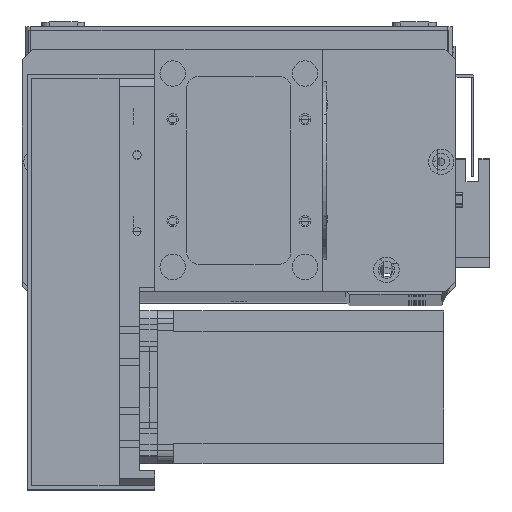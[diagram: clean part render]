
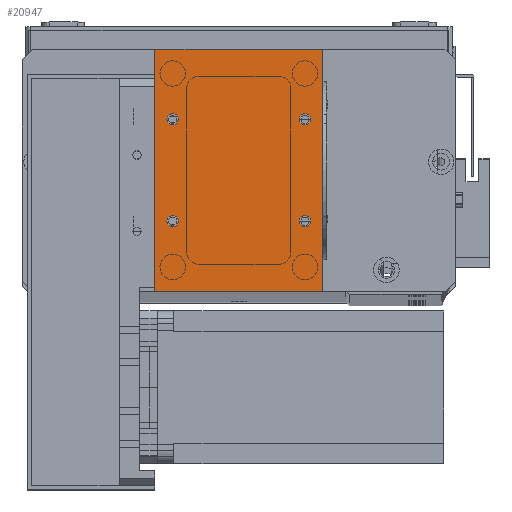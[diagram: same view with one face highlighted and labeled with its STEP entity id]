
A CAD part, top view. The second image highlights one B-rep face of the part: STEP entity #20947.
In plain terms, the highlighted planar face has unit normal (0, 0, 1).
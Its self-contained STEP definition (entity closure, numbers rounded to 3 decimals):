
#567 = ORIENTED_EDGE ( 'NONE', *, *, #2115, .F. ) ;
#803 = CARTESIAN_POINT ( 'NONE',  ( 59., 67.5, 2. ) ) ;
#1285 = PLANE ( 'NONE',  #7301 ) ;
#1439 = DIRECTION ( 'NONE',  ( 1., 0., 0. ) ) ;
#1466 = DIRECTION ( 'NONE',  ( 0., 0., 1. ) ) ;
#1547 = CARTESIAN_POINT ( 'NONE',  ( 7., 27.5, 2. ) ) ;
#2023 = FACE_BOUND ( 'NONE', #6012, .T. ) ;
#2066 = EDGE_CURVE ( 'NONE', #28147, #5620, #19263, .T. ) ;
#2115 = EDGE_CURVE ( 'NONE', #4869, #18068, #24587, .T. ) ;
#2443 = CARTESIAN_POINT ( 'NONE',  ( 66., 0., 2. ) ) ;
#2598 = CARTESIAN_POINT ( 'NONE',  ( 59., 27.5, 2. ) ) ;
#2672 = DIRECTION ( 'NONE',  ( 0., 0., 1. ) ) ;
#2679 = DIRECTION ( 'NONE',  ( 1., 0., 0. ) ) ;
#2880 = FACE_BOUND ( 'NONE', #15116, .T. ) ;
#3403 = AXIS2_PLACEMENT_3D ( 'NONE', #3991, #4070, #4108 ) ;
#3521 = DIRECTION ( 'NONE',  ( 1., 0., 0. ) ) ;
#3991 = CARTESIAN_POINT ( 'NONE',  ( 59., 67.5, 2. ) ) ;
#4070 = DIRECTION ( 'NONE',  ( 0., 0., 1. ) ) ;
#4108 = DIRECTION ( 'NONE',  ( 1., 0., 0. ) ) ;
#4228 = LINE ( 'NONE', #27708, #23693 ) ;
#4869 = VERTEX_POINT ( 'NONE', #25744 ) ;
#5131 = VERTEX_POINT ( 'NONE', #30976 ) ;
#5620 = VERTEX_POINT ( 'NONE', #14613 ) ;
#5878 = VECTOR ( 'NONE', #31390, 1000. ) ;
#5947 = EDGE_CURVE ( 'NONE', #17733, #8919, #14977, .T. ) ;
#6012 = EDGE_LOOP ( 'NONE', ( #10769, #17584 ) ) ;
#6760 = CARTESIAN_POINT ( 'NONE',  ( 0., 0., 2. ) ) ;
#7039 = VERTEX_POINT ( 'NONE', #13766 ) ;
#7074 = CIRCLE ( 'NONE', #17152, 2.25 ) ;
#7300 = ORIENTED_EDGE ( 'NONE', *, *, #16182, .F. ) ;
#7301 = AXIS2_PLACEMENT_3D ( 'NONE', #6760, #25200, #9449 ) ;
#7383 = CARTESIAN_POINT ( 'NONE',  ( 4.75, 27.5, 2. ) ) ;
#7675 = LINE ( 'NONE', #9175, #26996 ) ;
#8390 = FACE_OUTER_BOUND ( 'NONE', #14585, .T. ) ;
#8451 = VECTOR ( 'NONE', #29692, 1000. ) ;
#8919 = VERTEX_POINT ( 'NONE', #7383 ) ;
#9175 = CARTESIAN_POINT ( 'NONE',  ( 0., 0., 2. ) ) ;
#9449 = DIRECTION ( 'NONE',  ( -1., 0., 0. ) ) ;
#9862 = EDGE_CURVE ( 'NONE', #32061, #10536, #29393, .T. ) ;
#10467 = EDGE_CURVE ( 'NONE', #21809, #7039, #32215, .T. ) ;
#10503 = EDGE_CURVE ( 'NONE', #5131, #29676, #4228, .T. ) ;
#10536 = VERTEX_POINT ( 'NONE', #26912 ) ;
#10600 = ORIENTED_EDGE ( 'NONE', *, *, #33491, .F. ) ;
#10769 = ORIENTED_EDGE ( 'NONE', *, *, #14923, .F. ) ;
#10793 = CARTESIAN_POINT ( 'NONE',  ( 7., 27.5, 2. ) ) ;
#11400 = CARTESIAN_POINT ( 'NONE',  ( 7., 67.5, 2. ) ) ;
#11819 = CARTESIAN_POINT ( 'NONE',  ( 7., 67.5, 2. ) ) ;
#11909 = DIRECTION ( 'NONE',  ( 1., 0., 0. ) ) ;
#12060 = DIRECTION ( 'NONE',  ( 0., 0., 1. ) ) ;
#13179 = CARTESIAN_POINT ( 'NONE',  ( 4.75, 67.5, 2. ) ) ;
#13436 = DIRECTION ( 'NONE',  ( 1., 0., 0. ) ) ;
#13614 = ORIENTED_EDGE ( 'NONE', *, *, #10503, .T. ) ;
#13736 = CIRCLE ( 'NONE', #18632, 2.25 ) ;
#13760 = LINE ( 'NONE', #2443, #5878 ) ;
#13766 = CARTESIAN_POINT ( 'NONE',  ( 66., 0., 2. ) ) ;
#14089 = DIRECTION ( 'NONE',  ( 1., 0., 0. ) ) ;
#14326 = CIRCLE ( 'NONE', #15778, 2.25 ) ;
#14585 = EDGE_LOOP ( 'NONE', ( #30193, #26647, #25184, #13614 ) ) ;
#14613 = CARTESIAN_POINT ( 'NONE',  ( 61.25, 27.5, 2. ) ) ;
#14726 = EDGE_LOOP ( 'NONE', ( #10600, #30749 ) ) ;
#14923 = EDGE_CURVE ( 'NONE', #10536, #32061, #13736, .T. ) ;
#14977 = CIRCLE ( 'NONE', #15580, 2.25 ) ;
#15116 = EDGE_LOOP ( 'NONE', ( #18553, #567 ) ) ;
#15330 = DIRECTION ( 'NONE',  ( 0., 0., 1. ) ) ;
#15435 = FACE_BOUND ( 'NONE', #16855, .T. ) ;
#15580 = AXIS2_PLACEMENT_3D ( 'NONE', #1547, #1466, #1439 ) ;
#15666 = AXIS2_PLACEMENT_3D ( 'NONE', #11819, #12060, #11909 ) ;
#15778 = AXIS2_PLACEMENT_3D ( 'NONE', #30961, #15330, #33569 ) ;
#16182 = EDGE_CURVE ( 'NONE', #8919, #17733, #7074, .T. ) ;
#16855 = EDGE_LOOP ( 'NONE', ( #18400, #7300 ) ) ;
#17152 = AXIS2_PLACEMENT_3D ( 'NONE', #10793, #29130, #13436 ) ;
#17584 = ORIENTED_EDGE ( 'NONE', *, *, #9862, .F. ) ;
#17733 = VERTEX_POINT ( 'NONE', #22261 ) ;
#18068 = VERTEX_POINT ( 'NONE', #29236 ) ;
#18400 = ORIENTED_EDGE ( 'NONE', *, *, #5947, .F. ) ;
#18553 = ORIENTED_EDGE ( 'NONE', *, *, #26553, .F. ) ;
#18632 = AXIS2_PLACEMENT_3D ( 'NONE', #11400, #29732, #14089 ) ;
#19263 = CIRCLE ( 'NONE', #21890, 2.25 ) ;
#19458 = DIRECTION ( 'NONE',  ( 0., 0., 1. ) ) ;
#19487 = CARTESIAN_POINT ( 'NONE',  ( 0., 0., 2. ) ) ;
#20947 = ADVANCED_FACE ( 'NONE', ( #2023, #2880, #22440, #15435, #8390 ), #1285, .F. ) ;
#21809 = VERTEX_POINT ( 'NONE', #19487 ) ;
#21890 = AXIS2_PLACEMENT_3D ( 'NONE', #2598, #2672, #2679 ) ;
#22261 = CARTESIAN_POINT ( 'NONE',  ( 9.25, 27.5, 2. ) ) ;
#22440 = FACE_BOUND ( 'NONE', #14726, .T. ) ;
#22955 = CARTESIAN_POINT ( 'NONE',  ( 56.75, 27.5, 2. ) ) ;
#23693 = VECTOR ( 'NONE', #27743, 1000. ) ;
#24587 = CIRCLE ( 'NONE', #3403, 2.25 ) ;
#25135 = CARTESIAN_POINT ( 'NONE',  ( 0., 95., 2. ) ) ;
#25184 = ORIENTED_EDGE ( 'NONE', *, *, #28881, .T. ) ;
#25200 = DIRECTION ( 'NONE',  ( 0., 0., -1. ) ) ;
#25744 = CARTESIAN_POINT ( 'NONE',  ( 56.75, 67.5, 2. ) ) ;
#26553 = EDGE_CURVE ( 'NONE', #18068, #4869, #31500, .T. ) ;
#26647 = ORIENTED_EDGE ( 'NONE', *, *, #10467, .T. ) ;
#26844 = AXIS2_PLACEMENT_3D ( 'NONE', #803, #19458, #3521 ) ;
#26912 = CARTESIAN_POINT ( 'NONE',  ( 9.25, 67.5, 2. ) ) ;
#26996 = VECTOR ( 'NONE', #30139, 1000. ) ;
#27406 = EDGE_CURVE ( 'NONE', #29676, #21809, #7675, .T. ) ;
#27708 = CARTESIAN_POINT ( 'NONE',  ( 0., 95., 2. ) ) ;
#27743 = DIRECTION ( 'NONE',  ( -1., 0., 0. ) ) ;
#28147 = VERTEX_POINT ( 'NONE', #22955 ) ;
#28881 = EDGE_CURVE ( 'NONE', #7039, #5131, #13760, .T. ) ;
#29130 = DIRECTION ( 'NONE',  ( 0., 0., 1. ) ) ;
#29236 = CARTESIAN_POINT ( 'NONE',  ( 61.25, 67.5, 2. ) ) ;
#29393 = CIRCLE ( 'NONE', #15666, 2.25 ) ;
#29654 = CARTESIAN_POINT ( 'NONE',  ( 0., 0., 2. ) ) ;
#29676 = VERTEX_POINT ( 'NONE', #25135 ) ;
#29692 = DIRECTION ( 'NONE',  ( 1., 0., 0. ) ) ;
#29732 = DIRECTION ( 'NONE',  ( 0., 0., 1. ) ) ;
#30139 = DIRECTION ( 'NONE',  ( 0., -1., 0. ) ) ;
#30193 = ORIENTED_EDGE ( 'NONE', *, *, #27406, .T. ) ;
#30749 = ORIENTED_EDGE ( 'NONE', *, *, #2066, .F. ) ;
#30961 = CARTESIAN_POINT ( 'NONE',  ( 59., 27.5, 2. ) ) ;
#30976 = CARTESIAN_POINT ( 'NONE',  ( 66., 95., 2. ) ) ;
#31390 = DIRECTION ( 'NONE',  ( 0., 1., 0. ) ) ;
#31500 = CIRCLE ( 'NONE', #26844, 2.25 ) ;
#32061 = VERTEX_POINT ( 'NONE', #13179 ) ;
#32215 = LINE ( 'NONE', #29654, #8451 ) ;
#33491 = EDGE_CURVE ( 'NONE', #5620, #28147, #14326, .T. ) ;
#33569 = DIRECTION ( 'NONE',  ( 1., 0., 0. ) ) ;
